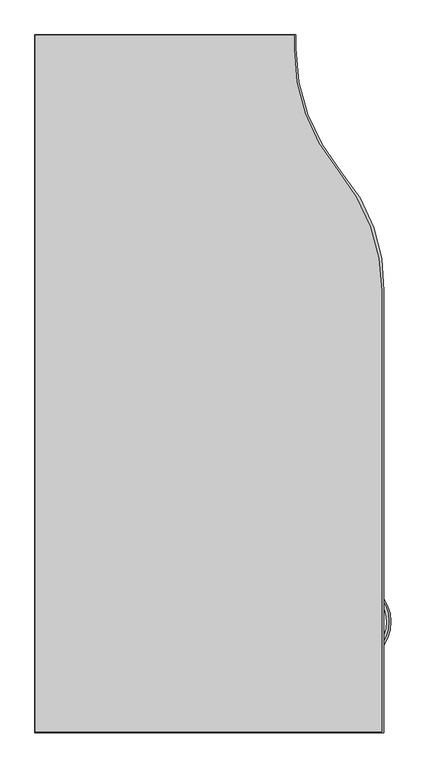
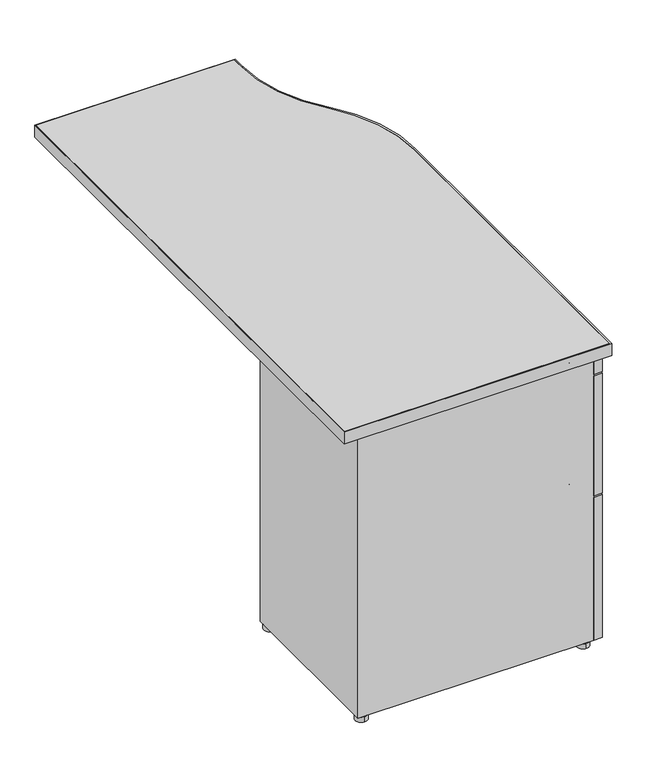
"""IFC4 building model written with IfcOpenShell, lengths in millimetres: furniture geometry, Steelcase - Kick Freestanding - Desk - Single Pedestal Transition Return : 18D x 48W - Left - File/File."""

from ifc_helpers import new_model, si_unit, point, frame, frame_2d, origin, origin_with_axes, place, context, project, spatial, polyline, circle_curve, ellipse_curve, trimmed, segment, composite_curve, outline, extrude, source, transform, mapped, element, save
from ifc_brep_helpers import plane_surface, cylinder_surface, revolved_surface, extruded_surface, advanced_brep


def furniture_87c2e452(model_context):
    return source(origin(), model_context, "Body", "SolidModel", [
        advanced_brep(
        [(2760.5907209, -1621.6132511, 586.4818798), (2760.5907209, -1621.6132511, 569.2783404), (2759.9247042, -1522.4632386, 586.4818798), (2759.9247042, -1522.4632386, 569.2783404)],
        [
            (0, 1, ellipse_curve(frame((2760.5907209, -1621.6132511, 577.8801101), z_axis=(-0.7327226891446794, -0.6805273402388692, 0.0), x_axis=(0.0, 0.0, -1.0)), 8.6017697, 3.6448177)),
            (1, 0, ellipse_curve(frame((2760.5907209, -1621.6132511, 577.8801101), z_axis=(-0.7327226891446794, -0.6805273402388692, 0.0), x_axis=(0.0, 0.0, -1.0)), 8.6017697, 3.6448177)),
            (2, 3, ellipse_curve(frame((2759.9247042, -1522.4632386, 577.8801101), z_axis=(-0.7417987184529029, 0.670622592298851, 0.0), x_axis=(0.0, 0.0, -1.0)), 8.6017697, 3.6448177)),
            (3, 2, ellipse_curve(frame((2759.9247042, -1522.4632386, 577.8801101), z_axis=(-0.7417987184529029, 0.670622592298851, 0.0), x_axis=(0.0, 0.0, -1.0)), 8.6017697, 3.6448177)),
            (3, 1, circle_curve(frame((2714.8305889, -1572.3433908, 569.2783404), z_axis=(0.0, 0.0, -1.0), x_axis=(0.6805273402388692, -0.7327226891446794, 0.0)), 67.2421655)),
            (0, 2, circle_curve(frame((2714.8305889, -1572.3433908, 586.4818798), z_axis=(0.0, 0.0, 1.0), x_axis=(0.6805273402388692, -0.7327226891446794, 0.0)), 67.2421655)),
        ],
        [
            plane_surface(frame((2761.3542952, -1622.4353903, 0.0), z_axis=(-0.7327226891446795, -0.6805273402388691, 0.0), x_axis=(0.0, 0.0, 1.0))),
            plane_surface(frame((2760.6771651, -1521.6309157, 0.0), z_axis=(-0.7417987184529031, 0.6706225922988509, 0.0), x_axis=(0.0, 0.0, 1.0))),
            revolved_surface(trimmed(ellipse_curve(frame((2760.5907209, -1621.6132511, 577.8801101), z_axis=(-0.7327226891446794, -0.6805273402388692, 0.0), x_axis=(0.0, 0.0, -1.0)), 8.6017697, 3.6448177), [point((2760.5907209, -1621.6132511, 586.4818798))], [point((2760.5907209, -1621.6132511, 569.2783404))], True, "CARTESIAN"), (2714.8305889, -1572.3433908, 0.0), (0.0, 0.0, 1.0)),
            revolved_surface(trimmed(ellipse_curve(frame((2760.5907209, -1621.6132511, 577.8801101), z_axis=(-0.7327226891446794, -0.6805273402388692, 0.0), x_axis=(0.0, 0.0, -1.0)), 8.6017697, 3.6448177), [point((2760.5907209, -1621.6132511, 569.2783404))], [point((2760.5907209, -1621.6132511, 586.4818798))], True, "CARTESIAN"), (2714.8305889, -1572.3433908, 0.0), (0.0, 0.0, 1.0)),
        ],
        [
            (0, [[1, 2]]),
            (1, [[3, 4]]),
            (2, [[5, -1, 6, -4]]),
            (3, [[-6, -2, -5, -3]]),
        ],
    ),
        advanced_brep(
        [(2760.5907209, -1621.6132511, 293.5881298), (2760.5907209, -1621.6132511, 276.3845904), (2759.9247042, -1522.4632386, 293.5881298), (2759.9247042, -1522.4632386, 276.3845904)],
        [
            (0, 1, ellipse_curve(frame((2760.5907209, -1621.6132511, 284.9863601), z_axis=(-0.7327226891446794, -0.6805273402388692, 0.0), x_axis=(0.0, 0.0, -1.0)), 8.6017697, 3.6448177)),
            (1, 0, ellipse_curve(frame((2760.5907209, -1621.6132511, 284.9863601), z_axis=(-0.7327226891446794, -0.6805273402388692, 0.0), x_axis=(0.0, 0.0, -1.0)), 8.6017697, 3.6448177)),
            (2, 3, ellipse_curve(frame((2759.9247042, -1522.4632386, 284.9863601), z_axis=(-0.7417987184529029, 0.670622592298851, 0.0), x_axis=(0.0, 0.0, -1.0)), 8.6017697, 3.6448177)),
            (3, 2, ellipse_curve(frame((2759.9247042, -1522.4632386, 284.9863601), z_axis=(-0.7417987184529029, 0.670622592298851, 0.0), x_axis=(0.0, 0.0, -1.0)), 8.6017697, 3.6448177)),
            (3, 1, circle_curve(frame((2714.8305889, -1572.3433908, 276.3845904), z_axis=(0.0, 0.0, -1.0), x_axis=(0.6805273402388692, -0.7327226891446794, 0.0)), 67.2421655)),
            (0, 2, circle_curve(frame((2714.8305889, -1572.3433908, 293.5881298), z_axis=(0.0, 0.0, 1.0), x_axis=(0.6805273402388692, -0.7327226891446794, 0.0)), 67.2421655)),
        ],
        [
            plane_surface(frame((2761.3542952, -1622.4353903, 0.0), z_axis=(-0.7327226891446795, -0.6805273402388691, 0.0), x_axis=(0.0, 0.0, 1.0))),
            plane_surface(frame((2760.6771651, -1521.6309157, 0.0), z_axis=(-0.7417987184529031, 0.6706225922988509, 0.0), x_axis=(0.0, 0.0, 1.0))),
            revolved_surface(trimmed(ellipse_curve(frame((2760.5907209, -1621.6132511, 284.9863601), z_axis=(-0.7327226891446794, -0.6805273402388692, 0.0), x_axis=(0.0, 0.0, -1.0)), 8.6017697, 3.6448177), [point((2760.5907209, -1621.6132511, 293.5881298))], [point((2760.5907209, -1621.6132511, 276.3845904))], True, "CARTESIAN"), (2714.8305889, -1572.3433908, 0.0), (0.0, 0.0, 1.0)),
            revolved_surface(trimmed(ellipse_curve(frame((2760.5907209, -1621.6132511, 284.9863601), z_axis=(-0.7327226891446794, -0.6805273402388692, 0.0), x_axis=(0.0, 0.0, -1.0)), 8.6017697, 3.6448177), [point((2760.5907209, -1621.6132511, 276.3845904))], [point((2760.5907209, -1621.6132511, 293.5881298))], True, "CARTESIAN"), (2714.8305889, -1572.3433908, 0.0), (0.0, 0.0, 1.0)),
        ],
        [
            (0, [[1, 2]]),
            (1, [[3, 4]]),
            (2, [[5, -1, 6, -4]]),
            (3, [[-6, -2, -5, -3]]),
        ],
    ),
        advanced_brep(
        [(2762.8455764, -1429.0380273, 671.1566635), (2762.8455764, -1408.7180273, 671.1566635), (2759.7468248, -1429.0380273, 671.1566635), (2759.7468248, -1408.7180273, 671.1566635)],
        [
            (0, 1, circle_curve(frame((2762.8455764, -1418.8780273, 671.1566635), z_axis=(1.0, 0.0, 0.0), x_axis=(0.0, 1.0, 0.0)), 10.16)),
            (1, 0, circle_curve(frame((2762.8455764, -1418.8780273, 671.1566635), z_axis=(1.0, 0.0, 0.0), x_axis=(0.0, 1.0, 0.0)), 10.16)),
            (2, 3, circle_curve(frame((2759.7468248, -1418.8780273, 671.1566635), z_axis=(-1.0, 0.0, 0.0), x_axis=(0.0, 1.0, 0.0)), 10.16)),
            (3, 2, circle_curve(frame((2759.7468248, -1418.8780273, 671.1566635), z_axis=(-1.0, 0.0, 0.0), x_axis=(0.0, 1.0, 0.0)), 10.16)),
            (0, 2),
            (3, 1),
        ],
        [
            plane_surface(frame((2762.8455764, -1408.7180273, 671.1566635), z_axis=(1.0, 0.0, 0.0), x_axis=(0.0, 0.0, 1.0))),
            plane_surface(frame((2759.7468248, -1408.7180273, 671.1566635), z_axis=(-1.0, 0.0, 0.0), x_axis=(0.0, 0.0, -1.0))),
            cylinder_surface(frame((2759.7468248, -1418.8780273, 671.1566635), z_axis=(1.0, 0.0, 0.0), x_axis=(0.0, 1.0, 0.0)), 10.16),
        ],
        [
            (0, [[1, 2]]),
            (1, [[3, 4]]),
            (2, [[-1, 5, -4, 6]]),
            (2, [[-2, -6, -3, -5]]),
        ],
    ),
        advanced_brep(
        [(2762.8455764, -1620.2140492, 589.4466513), (2762.8455764, -1620.2140492, 566.5866513), (2759.7468248, -1620.2140492, 589.4466513), (2759.7468248, -1620.2140492, 566.5866513)],
        [
            (0, 1, ellipse_curve(frame((2762.8455764, -1620.2140492, 578.0166513), z_axis=(1.0, 0.0, 0.0), x_axis=(0.0, 0.0, -1.0)), 11.43, 8.0054005)),
            (1, 0, ellipse_curve(frame((2762.8455764, -1620.2140492, 578.0166513), z_axis=(1.0, 0.0, 0.0), x_axis=(0.0, 0.0, -1.0)), 11.43, 8.0054005)),
            (2, 3, ellipse_curve(frame((2759.7468248, -1620.2140492, 578.0166513), z_axis=(-1.0, 0.0, 0.0), x_axis=(0.0, 0.0, -1.0)), 11.43, 8.0054005)),
            (3, 2, ellipse_curve(frame((2759.7468248, -1620.2140492, 578.0166513), z_axis=(-1.0, 0.0, 0.0), x_axis=(0.0, 0.0, -1.0)), 11.43, 8.0054005)),
            (0, 2),
            (3, 1),
        ],
        [
            plane_surface(frame((2762.8455764, -1408.7180273, 671.1566635), z_axis=(1.0, 0.0, 0.0), x_axis=(0.0, 0.0, 1.0))),
            plane_surface(frame((2759.7468248, -1408.7180273, 671.1566635), z_axis=(-1.0, 0.0, 0.0), x_axis=(0.0, 0.0, -1.0))),
            extruded_surface(trimmed(ellipse_curve(frame((2755.7590248, -1620.2140492, 578.0166513), z_axis=(1.0, 0.0, 0.0), x_axis=(0.0, 0.0, -1.0)), 11.43, 8.0054005), [point((2755.7590248, -1620.2140492, 589.4466513))], [point((2755.7590248, -1620.2140492, 566.5866513))], True, "CARTESIAN"), (3.098751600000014, 0.0, 0.0), 3.098751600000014),
            extruded_surface(trimmed(ellipse_curve(frame((2755.7590248, -1620.2140492, 578.0166513), z_axis=(1.0, 0.0, 0.0), x_axis=(0.0, 0.0, -1.0)), 11.43, 8.0054005), [point((2755.7590248, -1620.2140492, 566.5866513))], [point((2755.7590248, -1620.2140492, 589.4466513))], True, "CARTESIAN"), (3.098751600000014, 0.0, 0.0), 3.098751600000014),
        ],
        [
            (0, [[1, 2]]),
            (1, [[3, 4]]),
            (2, [[-1, 5, -4, 6]]),
            (3, [[-2, -6, -3, -5]]),
        ],
    ),
        advanced_brep(
        [(2762.8455764, -1522.8852323, 589.4466513), (2762.8455764, -1522.8852323, 566.5866513), (2759.7468248, -1522.8852323, 589.4466513), (2759.7468248, -1522.8852323, 566.5866513)],
        [
            (0, 1, ellipse_curve(frame((2762.8455764, -1522.8852323, 578.0166513), z_axis=(1.0, 0.0, 0.0), x_axis=(0.0, 0.0, -1.0)), 11.43, 8.0054005)),
            (1, 0, ellipse_curve(frame((2762.8455764, -1522.8852323, 578.0166513), z_axis=(1.0, 0.0, 0.0), x_axis=(0.0, 0.0, -1.0)), 11.43, 8.0054005)),
            (2, 3, ellipse_curve(frame((2759.7468248, -1522.8852323, 578.0166513), z_axis=(-1.0, 0.0, 0.0), x_axis=(0.0, 0.0, -1.0)), 11.43, 8.0054005)),
            (3, 2, ellipse_curve(frame((2759.7468248, -1522.8852323, 578.0166513), z_axis=(-1.0, 0.0, 0.0), x_axis=(0.0, 0.0, -1.0)), 11.43, 8.0054005)),
            (0, 2),
            (3, 1),
        ],
        [
            plane_surface(frame((2762.8455764, -1408.7180273, 671.1566635), z_axis=(1.0, 0.0, 0.0), x_axis=(0.0, 0.0, 1.0))),
            plane_surface(frame((2759.7468248, -1408.7180273, 671.1566635), z_axis=(-1.0, 0.0, 0.0), x_axis=(0.0, 0.0, -1.0))),
            extruded_surface(trimmed(ellipse_curve(frame((2755.7590248, -1522.8852323, 578.0166513), z_axis=(1.0, 0.0, 0.0), x_axis=(0.0, 0.0, -1.0)), 11.43, 8.0054005), [point((2755.7590248, -1522.8852323, 589.4466513))], [point((2755.7590248, -1522.8852323, 566.5866513))], True, "CARTESIAN"), (3.098751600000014, 0.0, 0.0), 3.098751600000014),
            extruded_surface(trimmed(ellipse_curve(frame((2755.7590248, -1522.8852323, 578.0166513), z_axis=(1.0, 0.0, 0.0), x_axis=(0.0, 0.0, -1.0)), 11.43, 8.0054005), [point((2755.7590248, -1522.8852323, 566.5866513))], [point((2755.7590248, -1522.8852323, 589.4466513))], True, "CARTESIAN"), (3.098751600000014, 0.0, 0.0), 3.098751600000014),
        ],
        [
            (0, [[1, 2]]),
            (1, [[3, 4]]),
            (2, [[-1, 5, -4, 6]]),
            (3, [[-2, -6, -3, -5]]),
        ],
    ),
        advanced_brep(
        [(2762.8455764, -1618.9790775, 296.5864566), (2762.8455764, -1618.9790775, 273.7264566), (2759.7468248, -1618.9790775, 296.5864566), (2759.7468248, -1618.9790775, 273.7264566)],
        [
            (0, 1, ellipse_curve(frame((2762.8455764, -1618.9790775, 285.1564566), z_axis=(1.0, 0.0, 0.0), x_axis=(0.0, 0.0, -1.0)), 11.43, 8.0054005)),
            (1, 0, ellipse_curve(frame((2762.8455764, -1618.9790775, 285.1564566), z_axis=(1.0, 0.0, 0.0), x_axis=(0.0, 0.0, -1.0)), 11.43, 8.0054005)),
            (2, 3, ellipse_curve(frame((2759.7468248, -1618.9790775, 285.1564566), z_axis=(-1.0, 0.0, 0.0), x_axis=(0.0, 0.0, -1.0)), 11.43, 8.0054005)),
            (3, 2, ellipse_curve(frame((2759.7468248, -1618.9790775, 285.1564566), z_axis=(-1.0, 0.0, 0.0), x_axis=(0.0, 0.0, -1.0)), 11.43, 8.0054005)),
            (0, 2),
            (3, 1),
        ],
        [
            plane_surface(frame((2762.8455764, -1408.7180273, 671.1566635), z_axis=(1.0, 0.0, 0.0), x_axis=(0.0, 0.0, 1.0))),
            plane_surface(frame((2759.7468248, -1408.7180273, 671.1566635), z_axis=(-1.0, 0.0, 0.0), x_axis=(0.0, 0.0, -1.0))),
            extruded_surface(trimmed(ellipse_curve(frame((2755.7590248, -1618.9790775, 285.1564566), z_axis=(1.0, 0.0, 0.0), x_axis=(0.0, 0.0, -1.0)), 11.43, 8.0054005), [point((2755.7590248, -1618.9790775, 296.5864566))], [point((2755.7590248, -1618.9790775, 273.7264566))], True, "CARTESIAN"), (3.098751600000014, 0.0, 0.0), 3.098751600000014),
            extruded_surface(trimmed(ellipse_curve(frame((2755.7590248, -1618.9790775, 285.1564566), z_axis=(1.0, 0.0, 0.0), x_axis=(0.0, 0.0, -1.0)), 11.43, 8.0054005), [point((2755.7590248, -1618.9790775, 273.7264566))], [point((2755.7590248, -1618.9790775, 296.5864566))], True, "CARTESIAN"), (3.098751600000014, 0.0, 0.0), 3.098751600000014),
        ],
        [
            (0, [[1, 2]]),
            (1, [[3, 4]]),
            (2, [[-1, 5, -4, 6]]),
            (3, [[-2, -6, -3, -5]]),
        ],
    ),
        advanced_brep(
        [(2762.8455764, -1521.6502606, 296.5864566), (2762.8455764, -1521.6502606, 273.7264566), (2759.7468248, -1521.6502606, 296.5864566), (2759.7468248, -1521.6502606, 273.7264566)],
        [
            (0, 1, ellipse_curve(frame((2762.8455764, -1521.6502606, 285.1564566), z_axis=(1.0, 0.0, 0.0), x_axis=(0.0, 0.0, -1.0)), 11.43, 8.0054005)),
            (1, 0, ellipse_curve(frame((2762.8455764, -1521.6502606, 285.1564566), z_axis=(1.0, 0.0, 0.0), x_axis=(0.0, 0.0, -1.0)), 11.43, 8.0054005)),
            (2, 3, ellipse_curve(frame((2759.7468248, -1521.6502606, 285.1564566), z_axis=(-1.0, 0.0, 0.0), x_axis=(0.0, 0.0, -1.0)), 11.43, 8.0054005)),
            (3, 2, ellipse_curve(frame((2759.7468248, -1521.6502606, 285.1564566), z_axis=(-1.0, 0.0, 0.0), x_axis=(0.0, 0.0, -1.0)), 11.43, 8.0054005)),
            (0, 2),
            (3, 1),
        ],
        [
            plane_surface(frame((2762.8455764, -1408.7180273, 671.1566635), z_axis=(1.0, 0.0, 0.0), x_axis=(0.0, 0.0, 1.0))),
            plane_surface(frame((2759.7468248, -1408.7180273, 671.1566635), z_axis=(-1.0, 0.0, 0.0), x_axis=(0.0, 0.0, -1.0))),
            extruded_surface(trimmed(ellipse_curve(frame((2755.7590248, -1521.6502606, 285.1564566), z_axis=(1.0, 0.0, 0.0), x_axis=(0.0, 0.0, -1.0)), 11.43, 8.0054005), [point((2755.7590248, -1521.6502606, 296.5864566))], [point((2755.7590248, -1521.6502606, 273.7264566))], True, "CARTESIAN"), (3.098751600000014, 0.0, 0.0), 3.098751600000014),
            extruded_surface(trimmed(ellipse_curve(frame((2755.7590248, -1521.6502606, 285.1564566), z_axis=(1.0, 0.0, 0.0), x_axis=(0.0, 0.0, -1.0)), 11.43, 8.0054005), [point((2755.7590248, -1521.6502606, 273.7264566))], [point((2755.7590248, -1521.6502606, 296.5864566))], True, "CARTESIAN"), (3.098751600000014, 0.0, 0.0), 3.098751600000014),
        ],
        [
            (0, [[1, 2]]),
            (1, [[3, 4]]),
            (2, [[-1, 5, -4, 6]]),
            (3, [[-2, -6, -3, -5]]),
        ],
    ),
        extrude(outline(polyline([(2759.7468248, -1367.7776054), (2759.7468248, -1752.7145982), (2739.8077764, -1752.7145982), (2739.8077764, -1367.7776054), (2759.7468248, -1367.7776054)])), frame((0.0, 0.0, 360.6545895), z_axis=(0.0, 0.0, 1.0), x_axis=(1.0, 0.0, 0.0)), (0.0, 0.0, 1.0), 288.9250242),
        extrude(outline(polyline([(2759.7468248, -1367.7776054), (2759.7468248, -1752.7145982), (2739.8077764, -1752.7145982), (2739.8077764, -1367.7776054), (2759.7468248, -1367.7776054)])), frame((0.0, 0.0, 12.7), z_axis=(0.0, 0.0, 1.0), x_axis=(1.0, 0.0, 0.0)), (0.0, 0.0, 1.0), 344.7796016),
        extrude(outline(polyline([(2759.7468248, -1367.7776054), (2759.7468248, -1752.7145982), (2739.8077764, -1752.7145982), (2739.8077764, -1367.7776054), (2759.7468248, -1367.7776054)])), frame((0.0, 0.0, 652.7545653), z_axis=(0.0, 0.0, 1.0), x_axis=(1.0, 0.0, 0.0)), (0.0, 0.0, 1.0), 40.6400339),
        extrude(outline(composite_curve([segment(trimmed(circle_curve(frame_2d((2217.7074425, -1740.1382652)), 13.97), [point((2217.7074425, -1754.1082652))], [point((2217.7074425, -1726.1682652))], False, "CARTESIAN"), True, "CONTINUOUS"), segment(trimmed(circle_curve(frame_2d((2217.7074425, -1740.1382652)), 13.97), [point((2217.7074425, -1726.1682652))], [point((2217.7074425, -1754.1082652))], False, "CARTESIAN"), True, "CONTINUOUS")], self_intersect=False)), origin_with_axes(), (0.0, 0.0, 1.0), 12.446),
        extrude(outline(composite_curve([segment(trimmed(circle_curve(frame_2d((2722.6594425, -1740.1382652)), 13.97), [point((2722.6594425, -1754.1082652))], [point((2722.6594425, -1726.1682652))], False, "CARTESIAN"), True, "CONTINUOUS"), segment(trimmed(circle_curve(frame_2d((2722.6594425, -1740.1382652)), 13.97), [point((2722.6594425, -1726.1682652))], [point((2722.6594425, -1754.1082652))], False, "CARTESIAN"), True, "CONTINUOUS")], self_intersect=False)), origin_with_axes(), (0.0, 0.0, 1.0), 12.446),
        extrude(outline(composite_curve([segment(trimmed(circle_curve(frame_2d((2217.7074425, -1380.4776054)), 13.97), [point((2217.7074425, -1394.4476054))], [point((2217.7074425, -1366.5076054))], False, "CARTESIAN"), True, "CONTINUOUS"), segment(trimmed(circle_curve(frame_2d((2217.7074425, -1380.4776054)), 13.97), [point((2217.7074425, -1366.5076054))], [point((2217.7074425, -1394.4476054))], False, "CARTESIAN"), True, "CONTINUOUS")], self_intersect=False)), origin_with_axes(), (0.0, 0.0, 1.0), 12.446),
        extrude(outline(composite_curve([segment(trimmed(circle_curve(frame_2d((2723.4604252, -1380.4776054)), 12.7), [point((2723.4604252, -1393.1776054))], [point((2723.4604252, -1367.7776054))], False, "CARTESIAN"), True, "CONTINUOUS"), segment(trimmed(circle_curve(frame_2d((2723.4604252, -1380.4776054)), 12.7), [point((2723.4604252, -1367.7776054))], [point((2723.4604252, -1393.1776054))], False, "CARTESIAN"), True, "CONTINUOUS")], self_intersect=False)), origin_with_axes(), (0.0, 0.0, 1.0), 12.446),
        extrude(outline(polyline([(2203.2328248, -1367.7776054), (2739.8077764, -1367.7776054), (2739.8077764, -1752.7145982), (2203.2328248, -1752.7145982), (2203.2328248, -1367.7776054)]), holes=[polyline([(2228.6328241, -1387.6149846), (2228.6328241, -1732.8771996), (2719.2338142, -1732.8771996), (2719.2338142, -1387.6149846), (2228.6328241, -1387.6149846)])]), frame((0.0, 0.0, 12.446), z_axis=(0.0, 0.0, 1.0), x_axis=(1.0, 0.0, 0.0)), (0.0, 0.0, 1.0), 682.498),
        extrude(outline(composite_curve([segment(polyline([(2616.8176592, -547.8051152), (2616.8176592, -572.1320079)]), True, "CONTINUOUS"), segment(trimmed(circle_curve(frame_2d((2941.6463505, -574.5942763)), 324.8380233), [point((2616.8176592, -572.1320079))], [point((2692.5587903, -783.1011797))], True, "CARTESIAN"), True, "CONTINUOUS"), segment(trimmed(circle_curve(frame_2d((2440.4841513, -994.1085152)), 328.7335079), [point((2692.5587903, -783.1011797))], [point((2769.2176592, -994.1085152))], False, "CARTESIAN"), True, "CONTINUOUS"), segment(polyline([(2769.2176592, -994.1085152), (2769.2176592, -1764.2619332), (2164.8500425, -1764.2619332), (2164.8500425, -547.8051152), (2616.8176592, -547.8051152)]), True, "CONTINUOUS")], self_intersect=False)), frame((0.0, 0.0, 694.944), z_axis=(0.0, 0.0, 1.0), x_axis=(1.0, 0.0, 0.0)), (0.0, 0.0, 1.0), 28.956),
        extrude(outline(composite_curve([segment(polyline([(2619.7894255, -546.8145152), (2619.7894255, -571.0836731)]), True, "CONTINUOUS"), segment(trimmed(circle_curve(frame_2d((2951.3460478, -571.0836731)), 331.5566223), [point((2619.7894255, -571.0836731))], [point((2699.261298, -786.4509703))], True, "CARTESIAN"), True, "CONTINUOUS"), segment(trimmed(circle_curve(frame_2d((2463.6949436, -987.7058619)), 309.8306613), [point((2699.261298, -786.4509703))], [point((2773.4594425, -994.1085152))], False, "CARTESIAN"), True, "CONTINUOUS"), segment(polyline([(2773.4594425, -994.1085152), (2773.4594425, -1766.0145152), (2163.8594425, -1766.0145152), (2163.8594425, -546.8145152), (2619.7894255, -546.8145152)]), True, "CONTINUOUS")], self_intersect=False), holes=[composite_curve([segment(polyline([(2616.8176592, -547.8051152), (2164.8500425, -547.8051152), (2164.8500425, -1764.2619332), (2769.2176592, -1764.2619332), (2769.2176592, -994.1085152)]), True, "CONTINUOUS"), segment(trimmed(circle_curve(frame_2d((2440.4841513, -994.1085152)), 328.7335079), [point((2769.2176592, -994.1085152))], [point((2692.5587903, -783.1011797))], True, "CARTESIAN"), True, "CONTINUOUS"), segment(trimmed(circle_curve(frame_2d((2941.6463505, -574.5942763)), 324.8380233), [point((2692.5587903, -783.1011797))], [point((2616.8176592, -572.1320079))], False, "CARTESIAN"), True, "CONTINUOUS"), segment(polyline([(2616.8176592, -572.1320079), (2616.8176592, -547.8051152)]), True, "CONTINUOUS")], self_intersect=False)]), frame((0.0, 0.0, 694.944), z_axis=(0.0, 0.0, 1.0), x_axis=(1.0, 0.0, 0.0)), (0.0, 0.0, 1.0), 28.956),
    ])


if __name__ == "__main__":
    model = new_model("IFC4")
    model_context = context("Model", 3, world=origin())
    ifc_project = project(units=[si_unit("LENGTHUNIT", "METRE", prefix="MILLI")], contexts=[model_context])
    site = spatial("IfcSite", under=ifc_project)
    building = spatial("IfcBuilding", under=site)
    placement = place(None, origin())
    furniture_shape = furniture_87c2e452(model_context)
    element("IfcFurniture", 1, ObjectType="Steelcase - Kick Freestanding - Desk - Single Pedestal Transition Return : 18D x 48W - Left - File/File", at=placement, inside=building, context=model_context, shape_type="MappedRepresentation", body=[
        mapped(furniture_shape, transform((0.0, 0.0, 0.0), x_axis=(1.0, 0.0, 0.0), y_axis=(0.0, 1.0, 0.0), z_axis=(0.0, 0.0, 1.0))),
    ])
    save(model, "model.ifc")
